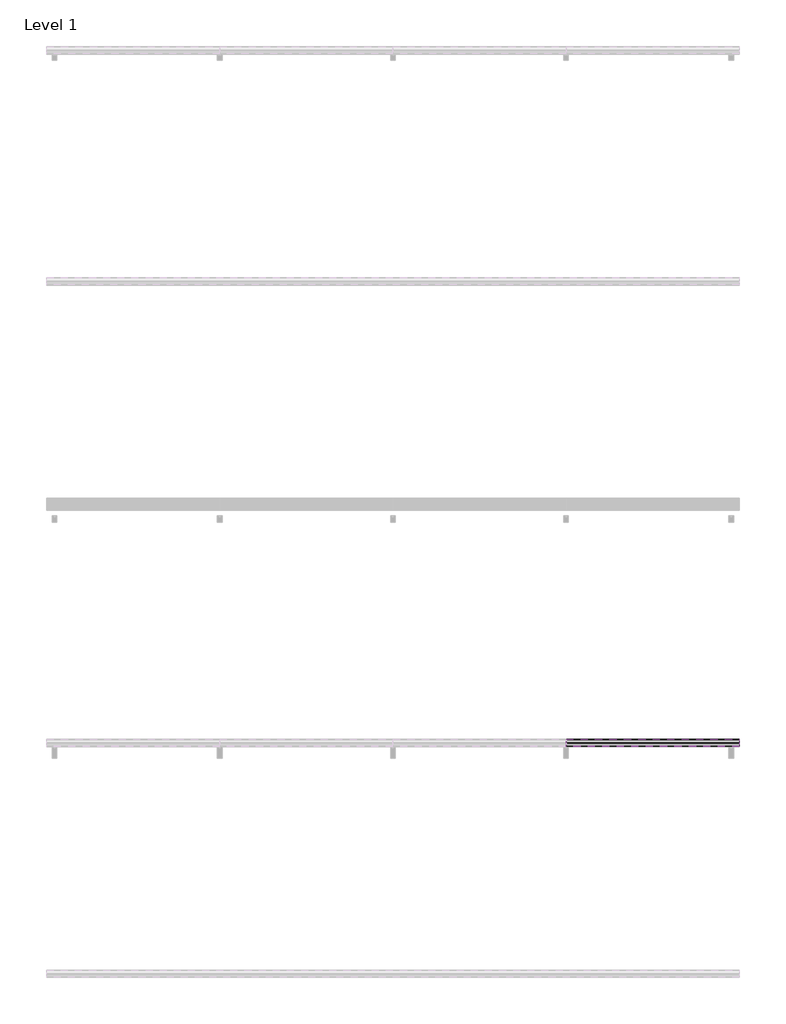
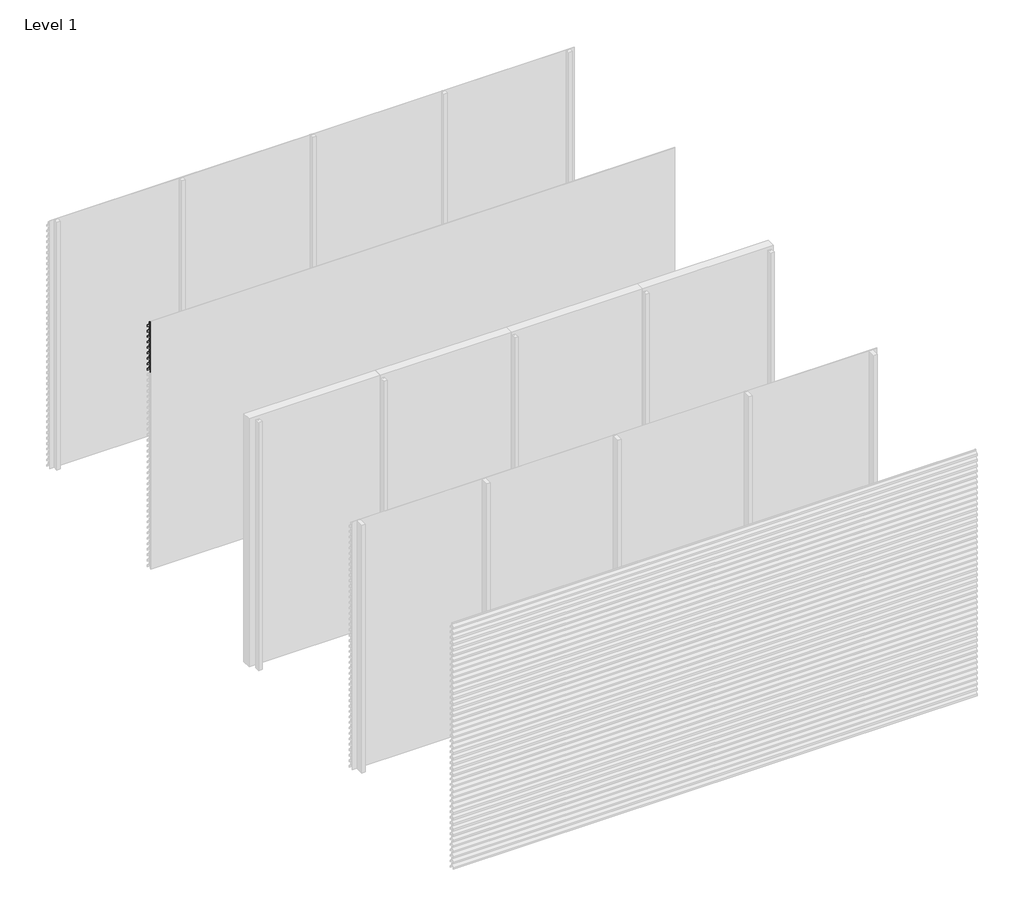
# One storey, part 15 of 35: 70 proxies.
"""IFC4 building model written with IfcOpenShell, lengths in millimetres."""

from ifc_helpers import new_model, si_unit, frame, origin, place, context, project, spatial, polyline, outline, extrude, element, save

model = new_model("IFC4")

# Units and contexts
model_context = context("Model", 3, world=origin())
ifc_project = project(units=[si_unit("LENGTHUNIT", "METRE", prefix="MILLI")], contexts=[model_context])

# Site, building, storey
site = spatial("IfcSite", under=ifc_project)
building = spatial("IfcBuilding", under=site)
storey = spatial("IfcBuildingStorey", under=building, Name="Level 1", Elevation=0.0)

# Proxies
placement = place(None, origin())
element("IfcBuildingElementProxy", 1, Name="Wall Sweeps", at=placement, inside=storey, context=model_context, shape_type="SweptSolid", body=[
    extrude(outline(polyline([(-31936.0, 2916.0), (-31936.0, 2896.0), (-31937.25, 2896.0), (-31937.25, 2915.4342979), (-31968.1138939, 2948.531772), (-31996.7, 2928.4392868), (-31996.7, 2909.6629874), (-31998.0, 2908.8506572), (-31998.0, 2929.1145472), (-31968.537525, 2949.823011), (-31968.537525, 2970.0), (-31967.1772624, 2970.0), (-31967.1772624, 2949.4335207), (-31936.0, 2916.0)])), frame((0.0, 0.0, 0.0), z_axis=(1.0, 0.0, 0.0), x_axis=(0.0, 1.0, 0.0)), (0.0, 0.0, 1.0), 6000.0),
])
element("IfcBuildingElementProxy", 2, Name="Wall Sweeps", at=placement, inside=storey, context=model_context, shape_type="SweptSolid", body=[
    extrude(outline(polyline([(-31936.0, 2850.0), (-31936.0, 2830.0), (-31937.25, 2830.0), (-31937.25, 2849.4342979), (-31968.1138939, 2882.531772), (-31996.7, 2862.4392868), (-31996.7, 2843.6629874), (-31998.0, 2842.8506572), (-31998.0, 2863.1145472), (-31968.537525, 2883.823011), (-31968.537525, 2904.0), (-31967.1772624, 2904.0), (-31967.1772624, 2883.4335207), (-31936.0, 2850.0)])), frame((0.0, 0.0, 0.0), z_axis=(1.0, 0.0, 0.0), x_axis=(0.0, 1.0, 0.0)), (0.0, 0.0, 1.0), 6000.0),
])
element("IfcBuildingElementProxy", 3, Name="Wall Sweeps", at=placement, inside=storey, context=model_context, shape_type="SweptSolid", body=[
    extrude(outline(polyline([(-31936.0, 2784.0), (-31936.0, 2764.0), (-31937.25, 2764.0), (-31937.25, 2783.4342979), (-31968.1138939, 2816.531772), (-31996.7, 2796.4392868), (-31996.7, 2777.6629874), (-31998.0, 2776.8506572), (-31998.0, 2797.1145472), (-31968.537525, 2817.823011), (-31968.537525, 2838.0), (-31967.1772624, 2838.0), (-31967.1772624, 2817.4335207), (-31936.0, 2784.0)])), frame((0.0, 0.0, 0.0), z_axis=(1.0, 0.0, 0.0), x_axis=(0.0, 1.0, 0.0)), (0.0, 0.0, 1.0), 6000.0),
])
element("IfcBuildingElementProxy", 4, Name="Wall Sweeps", at=placement, inside=storey, context=model_context, shape_type="SweptSolid", body=[
    extrude(outline(polyline([(-31936.0, 2718.0), (-31936.0, 2698.0), (-31937.25, 2698.0), (-31937.25, 2717.4342979), (-31968.1138939, 2750.531772), (-31996.7, 2730.4392868), (-31996.7, 2711.6629874), (-31998.0, 2710.8506572), (-31998.0, 2731.1145472), (-31968.537525, 2751.823011), (-31968.537525, 2772.0), (-31967.1772624, 2772.0), (-31967.1772624, 2751.4335207), (-31936.0, 2718.0)])), frame((0.0, 0.0, 0.0), z_axis=(1.0, 0.0, 0.0), x_axis=(0.0, 1.0, 0.0)), (0.0, 0.0, 1.0), 6000.0),
])
element("IfcBuildingElementProxy", 5, Name="Wall Sweeps", at=placement, inside=storey, context=model_context, shape_type="SweptSolid", body=[
    extrude(outline(polyline([(-31936.0, 2652.0), (-31936.0, 2632.0), (-31937.25, 2632.0), (-31937.25, 2651.4342979), (-31968.1138939, 2684.531772), (-31996.7, 2664.4392868), (-31996.7, 2645.6629874), (-31998.0, 2644.8506572), (-31998.0, 2665.1145472), (-31968.537525, 2685.823011), (-31968.537525, 2706.0), (-31967.1772624, 2706.0), (-31967.1772624, 2685.4335207), (-31936.0, 2652.0)])), frame((0.0, 0.0, 0.0), z_axis=(1.0, 0.0, 0.0), x_axis=(0.0, 1.0, 0.0)), (0.0, 0.0, 1.0), 6000.0),
])
element("IfcBuildingElementProxy", 6, Name="Wall Sweeps", at=placement, inside=storey, context=model_context, shape_type="SweptSolid", body=[
    extrude(outline(polyline([(-31936.0, 2586.0), (-31936.0, 2566.0), (-31937.25, 2566.0), (-31937.25, 2585.4342979), (-31968.1138939, 2618.531772), (-31996.7, 2598.4392868), (-31996.7, 2579.6629874), (-31998.0, 2578.8506572), (-31998.0, 2599.1145472), (-31968.537525, 2619.823011), (-31968.537525, 2640.0), (-31967.1772624, 2640.0), (-31967.1772624, 2619.4335207), (-31936.0, 2586.0)])), frame((0.0, 0.0, 0.0), z_axis=(1.0, 0.0, 0.0), x_axis=(0.0, 1.0, 0.0)), (0.0, 0.0, 1.0), 6000.0),
])
element("IfcBuildingElementProxy", 7, Name="Wall Sweeps", at=placement, inside=storey, context=model_context, shape_type="SweptSolid", body=[
    extrude(outline(polyline([(-31936.0, 2520.0), (-31936.0, 2500.0), (-31937.25, 2500.0), (-31937.25, 2519.4342979), (-31968.1138939, 2552.531772), (-31996.7, 2532.4392868), (-31996.7, 2513.6629874), (-31998.0, 2512.8506572), (-31998.0, 2533.1145472), (-31968.537525, 2553.823011), (-31968.537525, 2574.0), (-31967.1772624, 2574.0), (-31967.1772624, 2553.4335207), (-31936.0, 2520.0)])), frame((0.0, 0.0, 0.0), z_axis=(1.0, 0.0, 0.0), x_axis=(0.0, 1.0, 0.0)), (0.0, 0.0, 1.0), 6000.0),
])
element("IfcBuildingElementProxy", 8, Name="Wall Sweeps", at=placement, inside=storey, context=model_context, shape_type="SweptSolid", body=[
    extrude(outline(polyline([(-31936.0, 2454.0), (-31936.0, 2434.0), (-31937.25, 2434.0), (-31937.25, 2453.4342979), (-31968.1138939, 2486.531772), (-31996.7, 2466.4392868), (-31996.7, 2447.6629874), (-31998.0, 2446.8506572), (-31998.0, 2467.1145472), (-31968.537525, 2487.823011), (-31968.537525, 2508.0), (-31967.1772624, 2508.0), (-31967.1772624, 2487.4335207), (-31936.0, 2454.0)])), frame((0.0, 0.0, 0.0), z_axis=(1.0, 0.0, 0.0), x_axis=(0.0, 1.0, 0.0)), (0.0, 0.0, 1.0), 6000.0),
])
element("IfcBuildingElementProxy", 9, Name="Wall Sweeps", at=placement, inside=storey, context=model_context, shape_type="SweptSolid", body=[
    extrude(outline(polyline([(-31936.0, 2388.0), (-31936.0, 2368.0), (-31937.25, 2368.0), (-31937.25, 2387.4342979), (-31968.1138939, 2420.531772), (-31996.7, 2400.4392868), (-31996.7, 2381.6629874), (-31998.0, 2380.8506572), (-31998.0, 2401.1145472), (-31968.537525, 2421.823011), (-31968.537525, 2442.0), (-31967.1772624, 2442.0), (-31967.1772624, 2421.4335207), (-31936.0, 2388.0)])), frame((0.0, 0.0, 0.0), z_axis=(1.0, 0.0, 0.0), x_axis=(0.0, 1.0, 0.0)), (0.0, 0.0, 1.0), 6000.0),
])
element("IfcBuildingElementProxy", 10, Name="Wall Sweeps", at=placement, inside=storey, context=model_context, shape_type="SweptSolid", body=[
    extrude(outline(polyline([(-35936.0, 1002.0), (-35936.0, 982.0), (-35937.25, 982.0), (-35937.25, 1001.4342979), (-35968.1138939, 1034.531772), (-35996.7, 1014.4392868), (-35996.7, 995.6629874), (-35998.0, 994.8506572), (-35998.0, 1015.1145472), (-35968.537525, 1035.823011), (-35968.537525, 1056.0), (-35967.1772624, 1056.0), (-35967.1772624, 1035.4335207), (-35936.0, 1002.0)])), frame((3000.0, 0.0, 0.0), z_axis=(1.0, 0.0, 0.0), x_axis=(0.0, 1.0, 0.0)), (0.0, 0.0, 1.0), 1500.0),
])
element("IfcBuildingElementProxy", 11, Name="Wall Sweeps", at=placement, inside=storey, context=model_context, shape_type="SweptSolid", body=[
    extrude(outline(polyline([(-35936.0, 936.0), (-35936.0, 916.0), (-35937.25, 916.0), (-35937.25, 935.4342979), (-35968.1138939, 968.531772), (-35996.7, 948.4392868), (-35996.7, 929.6629874), (-35998.0, 928.8506572), (-35998.0, 949.1145472), (-35968.537525, 969.823011), (-35968.537525, 990.0), (-35967.1772624, 990.0), (-35967.1772624, 969.4335207), (-35936.0, 936.0)])), frame((3000.0, 0.0, 0.0), z_axis=(1.0, 0.0, 0.0), x_axis=(0.0, 1.0, 0.0)), (0.0, 0.0, 1.0), 1500.0),
])
element("IfcBuildingElementProxy", 12, Name="Wall Sweeps", at=placement, inside=storey, context=model_context, shape_type="SweptSolid", body=[
    extrude(outline(polyline([(-35936.0, 870.0), (-35936.0, 850.0), (-35937.25, 850.0), (-35937.25, 869.4342979), (-35968.1138939, 902.531772), (-35996.7, 882.4392868), (-35996.7, 863.6629874), (-35998.0, 862.8506572), (-35998.0, 883.1145472), (-35968.537525, 903.823011), (-35968.537525, 924.0), (-35967.1772624, 924.0), (-35967.1772624, 903.4335207), (-35936.0, 870.0)])), frame((3000.0, 0.0, 0.0), z_axis=(1.0, 0.0, 0.0), x_axis=(0.0, 1.0, 0.0)), (0.0, 0.0, 1.0), 1500.0),
])
element("IfcBuildingElementProxy", 13, Name="Wall Sweeps", at=placement, inside=storey, context=model_context, shape_type="SweptSolid", body=[
    extrude(outline(polyline([(-35936.0, 804.0), (-35936.0, 784.0), (-35937.25, 784.0), (-35937.25, 803.4342979), (-35968.1138939, 836.531772), (-35996.7, 816.4392868), (-35996.7, 797.6629874), (-35998.0, 796.8506572), (-35998.0, 817.1145472), (-35968.537525, 837.823011), (-35968.537525, 858.0), (-35967.1772624, 858.0), (-35967.1772624, 837.4335207), (-35936.0, 804.0)])), frame((3000.0, 0.0, 0.0), z_axis=(1.0, 0.0, 0.0), x_axis=(0.0, 1.0, 0.0)), (0.0, 0.0, 1.0), 1500.0),
])
element("IfcBuildingElementProxy", 14, Name="Wall Sweeps", at=placement, inside=storey, context=model_context, shape_type="SweptSolid", body=[
    extrude(outline(polyline([(-35936.0, 738.0), (-35936.0, 718.0), (-35937.25, 718.0), (-35937.25, 737.4342979), (-35968.1138939, 770.531772), (-35996.7, 750.4392868), (-35996.7, 731.6629874), (-35998.0, 730.8506572), (-35998.0, 751.1145472), (-35968.537525, 771.823011), (-35968.537525, 792.0), (-35967.1772624, 792.0), (-35967.1772624, 771.4335207), (-35936.0, 738.0)])), frame((3000.0, 0.0, 0.0), z_axis=(1.0, 0.0, 0.0), x_axis=(0.0, 1.0, 0.0)), (0.0, 0.0, 1.0), 1500.0),
])
element("IfcBuildingElementProxy", 15, Name="Wall Sweeps", at=placement, inside=storey, context=model_context, shape_type="SweptSolid", body=[
    extrude(outline(polyline([(-35936.0, 672.0), (-35936.0, 652.0), (-35937.25, 652.0), (-35937.25, 671.4342979), (-35968.1138939, 704.531772), (-35996.7, 684.4392868), (-35996.7, 665.6629874), (-35998.0, 664.8506572), (-35998.0, 685.1145472), (-35968.537525, 705.823011), (-35968.537525, 726.0), (-35967.1772624, 726.0), (-35967.1772624, 705.4335207), (-35936.0, 672.0)])), frame((3000.0, 0.0, 0.0), z_axis=(1.0, 0.0, 0.0), x_axis=(0.0, 1.0, 0.0)), (0.0, 0.0, 1.0), 1500.0),
])
element("IfcBuildingElementProxy", 16, Name="Wall Sweeps", at=placement, inside=storey, context=model_context, shape_type="SweptSolid", body=[
    extrude(outline(polyline([(-35936.0, 606.0), (-35936.0, 586.0), (-35937.25, 586.0), (-35937.25, 605.4342979), (-35968.1138939, 638.531772), (-35996.7, 618.4392868), (-35996.7, 599.6629874), (-35998.0, 598.8506572), (-35998.0, 619.1145472), (-35968.537525, 639.823011), (-35968.537525, 660.0), (-35967.1772624, 660.0), (-35967.1772624, 639.4335207), (-35936.0, 606.0)])), frame((3000.0, 0.0, 0.0), z_axis=(1.0, 0.0, 0.0), x_axis=(0.0, 1.0, 0.0)), (0.0, 0.0, 1.0), 1500.0),
])
element("IfcBuildingElementProxy", 17, Name="Wall Sweeps", at=placement, inside=storey, context=model_context, shape_type="SweptSolid", body=[
    extrude(outline(polyline([(-35936.0, 540.0), (-35936.0, 520.0), (-35937.25, 520.0), (-35937.25, 539.4342979), (-35968.1138939, 572.531772), (-35996.7, 552.4392868), (-35996.7, 533.6629874), (-35998.0, 532.8506572), (-35998.0, 553.1145472), (-35968.537525, 573.823011), (-35968.537525, 594.0), (-35967.1772624, 594.0), (-35967.1772624, 573.4335207), (-35936.0, 540.0)])), frame((3000.0, 0.0, 0.0), z_axis=(1.0, 0.0, 0.0), x_axis=(0.0, 1.0, 0.0)), (0.0, 0.0, 1.0), 1500.0),
])
element("IfcBuildingElementProxy", 18, Name="Wall Sweeps", at=placement, inside=storey, context=model_context, shape_type="SweptSolid", body=[
    extrude(outline(polyline([(-35936.0, 474.0), (-35936.0, 454.0), (-35937.25, 454.0), (-35937.25, 473.4342979), (-35968.1138939, 506.531772), (-35996.7, 486.4392868), (-35996.7, 467.6629874), (-35998.0, 466.8506572), (-35998.0, 487.1145472), (-35968.537525, 507.823011), (-35968.537525, 528.0), (-35967.1772624, 528.0), (-35967.1772624, 507.4335207), (-35936.0, 474.0)])), frame((3000.0, 0.0, 0.0), z_axis=(1.0, 0.0, 0.0), x_axis=(0.0, 1.0, 0.0)), (0.0, 0.0, 1.0), 1500.0),
])
element("IfcBuildingElementProxy", 19, Name="Wall Sweeps", at=placement, inside=storey, context=model_context, shape_type="SweptSolid", body=[
    extrude(outline(polyline([(-35936.0, 408.0), (-35936.0, 388.0), (-35937.25, 388.0), (-35937.25, 407.4342979), (-35968.1138939, 440.531772), (-35996.7, 420.4392868), (-35996.7, 401.6629874), (-35998.0, 400.8506572), (-35998.0, 421.1145472), (-35968.537525, 441.823011), (-35968.537525, 462.0), (-35967.1772624, 462.0), (-35967.1772624, 441.4335207), (-35936.0, 408.0)])), frame((3000.0, 0.0, 0.0), z_axis=(1.0, 0.0, 0.0), x_axis=(0.0, 1.0, 0.0)), (0.0, 0.0, 1.0), 1500.0),
])
element("IfcBuildingElementProxy", 20, Name="Wall Sweeps", at=placement, inside=storey, context=model_context, shape_type="SweptSolid", body=[
    extrude(outline(polyline([(-35936.0, 342.0), (-35936.0, 322.0), (-35937.25, 322.0), (-35937.25, 341.4342979), (-35968.1138939, 374.531772), (-35996.7, 354.4392868), (-35996.7, 335.6629874), (-35998.0, 334.8506572), (-35998.0, 355.1145472), (-35968.537525, 375.823011), (-35968.537525, 396.0), (-35967.1772624, 396.0), (-35967.1772624, 375.4335207), (-35936.0, 342.0)])), frame((3000.0, 0.0, 0.0), z_axis=(1.0, 0.0, 0.0), x_axis=(0.0, 1.0, 0.0)), (0.0, 0.0, 1.0), 1500.0),
])
element("IfcBuildingElementProxy", 21, Name="Wall Sweeps", at=placement, inside=storey, context=model_context, shape_type="SweptSolid", body=[
    extrude(outline(polyline([(-35936.0, 276.0), (-35936.0, 256.0), (-35937.25, 256.0), (-35937.25, 275.4342979), (-35968.1138939, 308.531772), (-35996.7, 288.4392868), (-35996.7, 269.6629874), (-35998.0, 268.8506572), (-35998.0, 289.1145472), (-35968.537525, 309.823011), (-35968.537525, 330.0), (-35967.1772624, 330.0), (-35967.1772624, 309.4335207), (-35936.0, 276.0)])), frame((3000.0, 0.0, 0.0), z_axis=(1.0, 0.0, 0.0), x_axis=(0.0, 1.0, 0.0)), (0.0, 0.0, 1.0), 1500.0),
])
element("IfcBuildingElementProxy", 22, Name="Wall Sweeps", at=placement, inside=storey, context=model_context, shape_type="SweptSolid", body=[
    extrude(outline(polyline([(-35936.0, 210.0), (-35936.0, 190.0), (-35937.25, 190.0), (-35937.25, 209.4342979), (-35968.1138939, 242.531772), (-35996.7, 222.4392868), (-35996.7, 203.6629874), (-35998.0, 202.8506572), (-35998.0, 223.1145472), (-35968.537525, 243.823011), (-35968.537525, 264.0), (-35967.1772624, 264.0), (-35967.1772624, 243.4335207), (-35936.0, 210.0)])), frame((3000.0, 0.0, 0.0), z_axis=(1.0, 0.0, 0.0), x_axis=(0.0, 1.0, 0.0)), (0.0, 0.0, 1.0), 1500.0),
])
element("IfcBuildingElementProxy", 23, Name="Wall Sweeps", at=placement, inside=storey, context=model_context, shape_type="SweptSolid", body=[
    extrude(outline(polyline([(-35936.0, 144.0), (-35936.0, 124.0), (-35937.25, 124.0), (-35937.25, 143.4342979), (-35968.1138939, 176.531772), (-35996.7, 156.4392868), (-35996.7, 137.6629874), (-35998.0, 136.8506572), (-35998.0, 157.1145472), (-35968.537525, 177.823011), (-35968.537525, 198.0), (-35967.1772624, 198.0), (-35967.1772624, 177.4335207), (-35936.0, 144.0)])), frame((3000.0, 0.0, 0.0), z_axis=(1.0, 0.0, 0.0), x_axis=(0.0, 1.0, 0.0)), (0.0, 0.0, 1.0), 1500.0),
])
element("IfcBuildingElementProxy", 24, Name="Wall Sweeps", at=placement, inside=storey, context=model_context, shape_type="SweptSolid", body=[
    extrude(outline(polyline([(-35936.0, 78.0), (-35936.0, 58.0), (-35937.25, 58.0), (-35937.25, 77.4342979), (-35968.1138939, 110.531772), (-35996.7, 90.4392868), (-35996.7, 71.6629874), (-35998.0, 70.8506572), (-35998.0, 91.1145472), (-35968.537525, 111.823011), (-35968.537525, 132.0), (-35967.1772624, 132.0), (-35967.1772624, 111.4335207), (-35936.0, 78.0)])), frame((3000.0, 0.0, 0.0), z_axis=(1.0, 0.0, 0.0), x_axis=(0.0, 1.0, 0.0)), (0.0, 0.0, 1.0), 1500.0),
])
element("IfcBuildingElementProxy", 25, Name="Wall Sweeps", at=placement, inside=storey, context=model_context, shape_type="SweptSolid", body=[
    extrude(outline(polyline([(-35936.0, 12.0), (-35936.0, -8.0), (-35937.25, -8.0), (-35937.25, 11.4342979), (-35968.1138939, 44.531772), (-35996.7, 24.4392868), (-35996.7, 5.6629874), (-35998.0, 4.8506572), (-35998.0, 25.1145472), (-35968.537525, 45.823011), (-35968.537525, 66.0), (-35967.1772624, 66.0), (-35967.1772624, 45.4335207), (-35936.0, 12.0)])), frame((3000.0, 0.0, 0.0), z_axis=(1.0, 0.0, 0.0), x_axis=(0.0, 1.0, 0.0)), (0.0, 0.0, 1.0), 1500.0),
])
element("IfcBuildingElementProxy", 26, Name="Wall Sweeps", at=placement, inside=storey, context=model_context, shape_type="SweptSolid", body=[
    extrude(outline(polyline([(-35936.0, 2916.0), (-35936.0, 2896.0), (-35937.25, 2896.0), (-35937.25, 2915.4342979), (-35968.1138939, 2948.531772), (-35996.7, 2928.4392868), (-35996.7, 2909.6629874), (-35998.0, 2908.8506572), (-35998.0, 2929.1145472), (-35968.537525, 2949.823011), (-35968.537525, 2970.0), (-35967.1772624, 2970.0), (-35967.1772624, 2949.4335207), (-35936.0, 2916.0)])), frame((4500.0, 0.0, 0.0), z_axis=(1.0, 0.0, 0.0), x_axis=(0.0, 1.0, 0.0)), (0.0, 0.0, 1.0), 1500.0),
])
element("IfcBuildingElementProxy", 27, Name="Wall Sweeps", at=placement, inside=storey, context=model_context, shape_type="SweptSolid", body=[
    extrude(outline(polyline([(-35936.0, 2850.0), (-35936.0, 2830.0), (-35937.25, 2830.0), (-35937.25, 2849.4342979), (-35968.1138939, 2882.531772), (-35996.7, 2862.4392868), (-35996.7, 2843.6629874), (-35998.0, 2842.8506572), (-35998.0, 2863.1145472), (-35968.537525, 2883.823011), (-35968.537525, 2904.0), (-35967.1772624, 2904.0), (-35967.1772624, 2883.4335207), (-35936.0, 2850.0)])), frame((4500.0, 0.0, 0.0), z_axis=(1.0, 0.0, 0.0), x_axis=(0.0, 1.0, 0.0)), (0.0, 0.0, 1.0), 1500.0),
])
element("IfcBuildingElementProxy", 28, Name="Wall Sweeps", at=placement, inside=storey, context=model_context, shape_type="SweptSolid", body=[
    extrude(outline(polyline([(-35936.0, 2784.0), (-35936.0, 2764.0), (-35937.25, 2764.0), (-35937.25, 2783.4342979), (-35968.1138939, 2816.531772), (-35996.7, 2796.4392868), (-35996.7, 2777.6629874), (-35998.0, 2776.8506572), (-35998.0, 2797.1145472), (-35968.537525, 2817.823011), (-35968.537525, 2838.0), (-35967.1772624, 2838.0), (-35967.1772624, 2817.4335207), (-35936.0, 2784.0)])), frame((4500.0, 0.0, 0.0), z_axis=(1.0, 0.0, 0.0), x_axis=(0.0, 1.0, 0.0)), (0.0, 0.0, 1.0), 1500.0),
])
element("IfcBuildingElementProxy", 29, Name="Wall Sweeps", at=placement, inside=storey, context=model_context, shape_type="SweptSolid", body=[
    extrude(outline(polyline([(-35936.0, 2718.0), (-35936.0, 2698.0), (-35937.25, 2698.0), (-35937.25, 2717.4342979), (-35968.1138939, 2750.531772), (-35996.7, 2730.4392868), (-35996.7, 2711.6629874), (-35998.0, 2710.8506572), (-35998.0, 2731.1145472), (-35968.537525, 2751.823011), (-35968.537525, 2772.0), (-35967.1772624, 2772.0), (-35967.1772624, 2751.4335207), (-35936.0, 2718.0)])), frame((4500.0, 0.0, 0.0), z_axis=(1.0, 0.0, 0.0), x_axis=(0.0, 1.0, 0.0)), (0.0, 0.0, 1.0), 1500.0),
])
element("IfcBuildingElementProxy", 30, Name="Wall Sweeps", at=placement, inside=storey, context=model_context, shape_type="SweptSolid", body=[
    extrude(outline(polyline([(-35936.0, 2652.0), (-35936.0, 2632.0), (-35937.25, 2632.0), (-35937.25, 2651.4342979), (-35968.1138939, 2684.531772), (-35996.7, 2664.4392868), (-35996.7, 2645.6629874), (-35998.0, 2644.8506572), (-35998.0, 2665.1145472), (-35968.537525, 2685.823011), (-35968.537525, 2706.0), (-35967.1772624, 2706.0), (-35967.1772624, 2685.4335207), (-35936.0, 2652.0)])), frame((4500.0, 0.0, 0.0), z_axis=(1.0, 0.0, 0.0), x_axis=(0.0, 1.0, 0.0)), (0.0, 0.0, 1.0), 1500.0),
])
element("IfcBuildingElementProxy", 31, Name="Wall Sweeps", at=placement, inside=storey, context=model_context, shape_type="SweptSolid", body=[
    extrude(outline(polyline([(-35936.0, 2586.0), (-35936.0, 2566.0), (-35937.25, 2566.0), (-35937.25, 2585.4342979), (-35968.1138939, 2618.531772), (-35996.7, 2598.4392868), (-35996.7, 2579.6629874), (-35998.0, 2578.8506572), (-35998.0, 2599.1145472), (-35968.537525, 2619.823011), (-35968.537525, 2640.0), (-35967.1772624, 2640.0), (-35967.1772624, 2619.4335207), (-35936.0, 2586.0)])), frame((4500.0, 0.0, 0.0), z_axis=(1.0, 0.0, 0.0), x_axis=(0.0, 1.0, 0.0)), (0.0, 0.0, 1.0), 1500.0),
])
element("IfcBuildingElementProxy", 32, Name="Wall Sweeps", at=placement, inside=storey, context=model_context, shape_type="SweptSolid", body=[
    extrude(outline(polyline([(-35936.0, 2520.0), (-35936.0, 2500.0), (-35937.25, 2500.0), (-35937.25, 2519.4342979), (-35968.1138939, 2552.531772), (-35996.7, 2532.4392868), (-35996.7, 2513.6629874), (-35998.0, 2512.8506572), (-35998.0, 2533.1145472), (-35968.537525, 2553.823011), (-35968.537525, 2574.0), (-35967.1772624, 2574.0), (-35967.1772624, 2553.4335207), (-35936.0, 2520.0)])), frame((4500.0, 0.0, 0.0), z_axis=(1.0, 0.0, 0.0), x_axis=(0.0, 1.0, 0.0)), (0.0, 0.0, 1.0), 1500.0),
])
element("IfcBuildingElementProxy", 33, Name="Wall Sweeps", at=placement, inside=storey, context=model_context, shape_type="SweptSolid", body=[
    extrude(outline(polyline([(-35936.0, 2454.0), (-35936.0, 2434.0), (-35937.25, 2434.0), (-35937.25, 2453.4342979), (-35968.1138939, 2486.531772), (-35996.7, 2466.4392868), (-35996.7, 2447.6629874), (-35998.0, 2446.8506572), (-35998.0, 2467.1145472), (-35968.537525, 2487.823011), (-35968.537525, 2508.0), (-35967.1772624, 2508.0), (-35967.1772624, 2487.4335207), (-35936.0, 2454.0)])), frame((4500.0, 0.0, 0.0), z_axis=(1.0, 0.0, 0.0), x_axis=(0.0, 1.0, 0.0)), (0.0, 0.0, 1.0), 1500.0),
])
element("IfcBuildingElementProxy", 34, Name="Wall Sweeps", at=placement, inside=storey, context=model_context, shape_type="SweptSolid", body=[
    extrude(outline(polyline([(-35936.0, 2388.0), (-35936.0, 2368.0), (-35937.25, 2368.0), (-35937.25, 2387.4342979), (-35968.1138939, 2420.531772), (-35996.7, 2400.4392868), (-35996.7, 2381.6629874), (-35998.0, 2380.8506572), (-35998.0, 2401.1145472), (-35968.537525, 2421.823011), (-35968.537525, 2442.0), (-35967.1772624, 2442.0), (-35967.1772624, 2421.4335207), (-35936.0, 2388.0)])), frame((4500.0, 0.0, 0.0), z_axis=(1.0, 0.0, 0.0), x_axis=(0.0, 1.0, 0.0)), (0.0, 0.0, 1.0), 1500.0),
])
element("IfcBuildingElementProxy", 35, Name="Wall Sweeps", at=placement, inside=storey, context=model_context, shape_type="SweptSolid", body=[
    extrude(outline(polyline([(-35936.0, 2322.0), (-35936.0, 2302.0), (-35937.25, 2302.0), (-35937.25, 2321.4342979), (-35968.1138939, 2354.531772), (-35996.7, 2334.4392868), (-35996.7, 2315.6629874), (-35998.0, 2314.8506572), (-35998.0, 2335.1145472), (-35968.537525, 2355.823011), (-35968.537525, 2376.0), (-35967.1772624, 2376.0), (-35967.1772624, 2355.4335207), (-35936.0, 2322.0)])), frame((4500.0, 0.0, 0.0), z_axis=(1.0, 0.0, 0.0), x_axis=(0.0, 1.0, 0.0)), (0.0, 0.0, 1.0), 1500.0),
])
element("IfcBuildingElementProxy", 36, Name="Wall Sweeps", at=placement, inside=storey, context=model_context, shape_type="SweptSolid", body=[
    extrude(outline(polyline([(-35936.0, 2256.0), (-35936.0, 2236.0), (-35937.25, 2236.0), (-35937.25, 2255.4342979), (-35968.1138939, 2288.531772), (-35996.7, 2268.4392868), (-35996.7, 2249.6629874), (-35998.0, 2248.8506572), (-35998.0, 2269.1145472), (-35968.537525, 2289.823011), (-35968.537525, 2310.0), (-35967.1772624, 2310.0), (-35967.1772624, 2289.4335207), (-35936.0, 2256.0)])), frame((4500.0, 0.0, 0.0), z_axis=(1.0, 0.0, 0.0), x_axis=(0.0, 1.0, 0.0)), (0.0, 0.0, 1.0), 1500.0),
])
element("IfcBuildingElementProxy", 37, Name="Wall Sweeps", at=placement, inside=storey, context=model_context, shape_type="SweptSolid", body=[
    extrude(outline(polyline([(-35936.0, 2190.0), (-35936.0, 2170.0), (-35937.25, 2170.0), (-35937.25, 2189.4342979), (-35968.1138939, 2222.531772), (-35996.7, 2202.4392868), (-35996.7, 2183.6629874), (-35998.0, 2182.8506572), (-35998.0, 2203.1145472), (-35968.537525, 2223.823011), (-35968.537525, 2244.0), (-35967.1772624, 2244.0), (-35967.1772624, 2223.4335207), (-35936.0, 2190.0)])), frame((4500.0, 0.0, 0.0), z_axis=(1.0, 0.0, 0.0), x_axis=(0.0, 1.0, 0.0)), (0.0, 0.0, 1.0), 1500.0),
])
element("IfcBuildingElementProxy", 38, Name="Wall Sweeps", at=placement, inside=storey, context=model_context, shape_type="SweptSolid", body=[
    extrude(outline(polyline([(-35936.0, 2124.0), (-35936.0, 2104.0), (-35937.25, 2104.0), (-35937.25, 2123.4342979), (-35968.1138939, 2156.531772), (-35996.7, 2136.4392868), (-35996.7, 2117.6629874), (-35998.0, 2116.8506572), (-35998.0, 2137.1145472), (-35968.537525, 2157.823011), (-35968.537525, 2178.0), (-35967.1772624, 2178.0), (-35967.1772624, 2157.4335207), (-35936.0, 2124.0)])), frame((4500.0, 0.0, 0.0), z_axis=(1.0, 0.0, 0.0), x_axis=(0.0, 1.0, 0.0)), (0.0, 0.0, 1.0), 1500.0),
])
element("IfcBuildingElementProxy", 39, Name="Wall Sweeps", at=placement, inside=storey, context=model_context, shape_type="SweptSolid", body=[
    extrude(outline(polyline([(-35936.0, 2058.0), (-35936.0, 2038.0), (-35937.25, 2038.0), (-35937.25, 2057.4342979), (-35968.1138939, 2090.531772), (-35996.7, 2070.4392868), (-35996.7, 2051.6629874), (-35998.0, 2050.8506572), (-35998.0, 2071.1145472), (-35968.537525, 2091.823011), (-35968.537525, 2112.0), (-35967.1772624, 2112.0), (-35967.1772624, 2091.4335207), (-35936.0, 2058.0)])), frame((4500.0, 0.0, 0.0), z_axis=(1.0, 0.0, 0.0), x_axis=(0.0, 1.0, 0.0)), (0.0, 0.0, 1.0), 1500.0),
])
element("IfcBuildingElementProxy", 40, Name="Wall Sweeps", at=placement, inside=storey, context=model_context, shape_type="SweptSolid", body=[
    extrude(outline(polyline([(-35936.0, 1992.0), (-35936.0, 1972.0), (-35937.25, 1972.0), (-35937.25, 1991.4342979), (-35968.1138939, 2024.531772), (-35996.7, 2004.4392868), (-35996.7, 1985.6629874), (-35998.0, 1984.8506572), (-35998.0, 2005.1145472), (-35968.537525, 2025.823011), (-35968.537525, 2046.0), (-35967.1772624, 2046.0), (-35967.1772624, 2025.4335207), (-35936.0, 1992.0)])), frame((4500.0, 0.0, 0.0), z_axis=(1.0, 0.0, 0.0), x_axis=(0.0, 1.0, 0.0)), (0.0, 0.0, 1.0), 1500.0),
])
element("IfcBuildingElementProxy", 41, Name="Wall Sweeps", at=placement, inside=storey, context=model_context, shape_type="SweptSolid", body=[
    extrude(outline(polyline([(-35936.0, 1926.0), (-35936.0, 1906.0), (-35937.25, 1906.0), (-35937.25, 1925.4342979), (-35968.1138939, 1958.531772), (-35996.7, 1938.4392868), (-35996.7, 1919.6629874), (-35998.0, 1918.8506572), (-35998.0, 1939.1145472), (-35968.537525, 1959.823011), (-35968.537525, 1980.0), (-35967.1772624, 1980.0), (-35967.1772624, 1959.4335207), (-35936.0, 1926.0)])), frame((4500.0, 0.0, 0.0), z_axis=(1.0, 0.0, 0.0), x_axis=(0.0, 1.0, 0.0)), (0.0, 0.0, 1.0), 1500.0),
])
element("IfcBuildingElementProxy", 42, Name="Wall Sweeps", at=placement, inside=storey, context=model_context, shape_type="SweptSolid", body=[
    extrude(outline(polyline([(-35936.0, 1860.0), (-35936.0, 1840.0), (-35937.25, 1840.0), (-35937.25, 1859.4342979), (-35968.1138939, 1892.531772), (-35996.7, 1872.4392868), (-35996.7, 1853.6629874), (-35998.0, 1852.8506572), (-35998.0, 1873.1145472), (-35968.537525, 1893.823011), (-35968.537525, 1914.0), (-35967.1772624, 1914.0), (-35967.1772624, 1893.4335207), (-35936.0, 1860.0)])), frame((4500.0, 0.0, 0.0), z_axis=(1.0, 0.0, 0.0), x_axis=(0.0, 1.0, 0.0)), (0.0, 0.0, 1.0), 1500.0),
])
element("IfcBuildingElementProxy", 43, Name="Wall Sweeps", at=placement, inside=storey, context=model_context, shape_type="SweptSolid", body=[
    extrude(outline(polyline([(-35936.0, 1794.0), (-35936.0, 1774.0), (-35937.25, 1774.0), (-35937.25, 1793.4342979), (-35968.1138939, 1826.531772), (-35996.7, 1806.4392868), (-35996.7, 1787.6629874), (-35998.0, 1786.8506572), (-35998.0, 1807.1145472), (-35968.537525, 1827.823011), (-35968.537525, 1848.0), (-35967.1772624, 1848.0), (-35967.1772624, 1827.4335207), (-35936.0, 1794.0)])), frame((4500.0, 0.0, 0.0), z_axis=(1.0, 0.0, 0.0), x_axis=(0.0, 1.0, 0.0)), (0.0, 0.0, 1.0), 1500.0),
])
element("IfcBuildingElementProxy", 44, Name="Wall Sweeps", at=placement, inside=storey, context=model_context, shape_type="SweptSolid", body=[
    extrude(outline(polyline([(-35936.0, 1728.0), (-35936.0, 1708.0), (-35937.25, 1708.0), (-35937.25, 1727.4342979), (-35968.1138939, 1760.531772), (-35996.7, 1740.4392868), (-35996.7, 1721.6629874), (-35998.0, 1720.8506572), (-35998.0, 1741.1145472), (-35968.537525, 1761.823011), (-35968.537525, 1782.0), (-35967.1772624, 1782.0), (-35967.1772624, 1761.4335207), (-35936.0, 1728.0)])), frame((4500.0, 0.0, 0.0), z_axis=(1.0, 0.0, 0.0), x_axis=(0.0, 1.0, 0.0)), (0.0, 0.0, 1.0), 1500.0),
])
element("IfcBuildingElementProxy", 45, Name="Wall Sweeps", at=placement, inside=storey, context=model_context, shape_type="SweptSolid", body=[
    extrude(outline(polyline([(-35936.0, 1662.0), (-35936.0, 1642.0), (-35937.25, 1642.0), (-35937.25, 1661.4342979), (-35968.1138939, 1694.531772), (-35996.7, 1674.4392868), (-35996.7, 1655.6629874), (-35998.0, 1654.8506572), (-35998.0, 1675.1145472), (-35968.537525, 1695.823011), (-35968.537525, 1716.0), (-35967.1772624, 1716.0), (-35967.1772624, 1695.4335207), (-35936.0, 1662.0)])), frame((4500.0, 0.0, 0.0), z_axis=(1.0, 0.0, 0.0), x_axis=(0.0, 1.0, 0.0)), (0.0, 0.0, 1.0), 1500.0),
])
element("IfcBuildingElementProxy", 46, Name="Wall Sweeps", at=placement, inside=storey, context=model_context, shape_type="SweptSolid", body=[
    extrude(outline(polyline([(-35936.0, 1596.0), (-35936.0, 1576.0), (-35937.25, 1576.0), (-35937.25, 1595.4342979), (-35968.1138939, 1628.531772), (-35996.7, 1608.4392868), (-35996.7, 1589.6629874), (-35998.0, 1588.8506572), (-35998.0, 1609.1145472), (-35968.537525, 1629.823011), (-35968.537525, 1650.0), (-35967.1772624, 1650.0), (-35967.1772624, 1629.4335207), (-35936.0, 1596.0)])), frame((4500.0, 0.0, 0.0), z_axis=(1.0, 0.0, 0.0), x_axis=(0.0, 1.0, 0.0)), (0.0, 0.0, 1.0), 1500.0),
])
element("IfcBuildingElementProxy", 47, Name="Wall Sweeps", at=placement, inside=storey, context=model_context, shape_type="SweptSolid", body=[
    extrude(outline(polyline([(-35936.0, 1530.0), (-35936.0, 1510.0), (-35937.25, 1510.0), (-35937.25, 1529.4342979), (-35968.1138939, 1562.531772), (-35996.7, 1542.4392868), (-35996.7, 1523.6629874), (-35998.0, 1522.8506572), (-35998.0, 1543.1145472), (-35968.537525, 1563.823011), (-35968.537525, 1584.0), (-35967.1772624, 1584.0), (-35967.1772624, 1563.4335207), (-35936.0, 1530.0)])), frame((4500.0, 0.0, 0.0), z_axis=(1.0, 0.0, 0.0), x_axis=(0.0, 1.0, 0.0)), (0.0, 0.0, 1.0), 1500.0),
])
element("IfcBuildingElementProxy", 48, Name="Wall Sweeps", at=placement, inside=storey, context=model_context, shape_type="SweptSolid", body=[
    extrude(outline(polyline([(-35936.0, 1464.0), (-35936.0, 1444.0), (-35937.25, 1444.0), (-35937.25, 1463.4342979), (-35968.1138939, 1496.531772), (-35996.7, 1476.4392868), (-35996.7, 1457.6629874), (-35998.0, 1456.8506572), (-35998.0, 1477.1145472), (-35968.537525, 1497.823011), (-35968.537525, 1518.0), (-35967.1772624, 1518.0), (-35967.1772624, 1497.4335207), (-35936.0, 1464.0)])), frame((4500.0, 0.0, 0.0), z_axis=(1.0, 0.0, 0.0), x_axis=(0.0, 1.0, 0.0)), (0.0, 0.0, 1.0), 1500.0),
])
element("IfcBuildingElementProxy", 49, Name="Wall Sweeps", at=placement, inside=storey, context=model_context, shape_type="SweptSolid", body=[
    extrude(outline(polyline([(-35936.0, 1398.0), (-35936.0, 1378.0), (-35937.25, 1378.0), (-35937.25, 1397.4342979), (-35968.1138939, 1430.531772), (-35996.7, 1410.4392868), (-35996.7, 1391.6629874), (-35998.0, 1390.8506572), (-35998.0, 1411.1145472), (-35968.537525, 1431.823011), (-35968.537525, 1452.0), (-35967.1772624, 1452.0), (-35967.1772624, 1431.4335207), (-35936.0, 1398.0)])), frame((4500.0, 0.0, 0.0), z_axis=(1.0, 0.0, 0.0), x_axis=(0.0, 1.0, 0.0)), (0.0, 0.0, 1.0), 1500.0),
])
element("IfcBuildingElementProxy", 50, Name="Wall Sweeps", at=placement, inside=storey, context=model_context, shape_type="SweptSolid", body=[
    extrude(outline(polyline([(-35936.0, 1332.0), (-35936.0, 1312.0), (-35937.25, 1312.0), (-35937.25, 1331.4342979), (-35968.1138939, 1364.531772), (-35996.7, 1344.4392868), (-35996.7, 1325.6629874), (-35998.0, 1324.8506572), (-35998.0, 1345.1145472), (-35968.537525, 1365.823011), (-35968.537525, 1386.0), (-35967.1772624, 1386.0), (-35967.1772624, 1365.4335207), (-35936.0, 1332.0)])), frame((4500.0, 0.0, 0.0), z_axis=(1.0, 0.0, 0.0), x_axis=(0.0, 1.0, 0.0)), (0.0, 0.0, 1.0), 1500.0),
])
element("IfcBuildingElementProxy", 51, Name="Wall Sweeps", at=placement, inside=storey, context=model_context, shape_type="SweptSolid", body=[
    extrude(outline(polyline([(-35936.0, 1266.0), (-35936.0, 1246.0), (-35937.25, 1246.0), (-35937.25, 1265.4342979), (-35968.1138939, 1298.531772), (-35996.7, 1278.4392868), (-35996.7, 1259.6629874), (-35998.0, 1258.8506572), (-35998.0, 1279.1145472), (-35968.537525, 1299.823011), (-35968.537525, 1320.0), (-35967.1772624, 1320.0), (-35967.1772624, 1299.4335207), (-35936.0, 1266.0)])), frame((4500.0, 0.0, 0.0), z_axis=(1.0, 0.0, 0.0), x_axis=(0.0, 1.0, 0.0)), (0.0, 0.0, 1.0), 1500.0),
])
element("IfcBuildingElementProxy", 52, Name="Wall Sweeps", at=placement, inside=storey, context=model_context, shape_type="SweptSolid", body=[
    extrude(outline(polyline([(-35936.0, 1200.0), (-35936.0, 1180.0), (-35937.25, 1180.0), (-35937.25, 1199.4342979), (-35968.1138939, 1232.531772), (-35996.7, 1212.4392868), (-35996.7, 1193.6629874), (-35998.0, 1192.8506572), (-35998.0, 1213.1145472), (-35968.537525, 1233.823011), (-35968.537525, 1254.0), (-35967.1772624, 1254.0), (-35967.1772624, 1233.4335207), (-35936.0, 1200.0)])), frame((4500.0, 0.0, 0.0), z_axis=(1.0, 0.0, 0.0), x_axis=(0.0, 1.0, 0.0)), (0.0, 0.0, 1.0), 1500.0),
])
element("IfcBuildingElementProxy", 53, Name="Wall Sweeps", at=placement, inside=storey, context=model_context, shape_type="SweptSolid", body=[
    extrude(outline(polyline([(-35936.0, 1134.0), (-35936.0, 1114.0), (-35937.25, 1114.0), (-35937.25, 1133.4342979), (-35968.1138939, 1166.531772), (-35996.7, 1146.4392868), (-35996.7, 1127.6629874), (-35998.0, 1126.8506572), (-35998.0, 1147.1145472), (-35968.537525, 1167.823011), (-35968.537525, 1188.0), (-35967.1772624, 1188.0), (-35967.1772624, 1167.4335207), (-35936.0, 1134.0)])), frame((4500.0, 0.0, 0.0), z_axis=(1.0, 0.0, 0.0), x_axis=(0.0, 1.0, 0.0)), (0.0, 0.0, 1.0), 1500.0),
])
element("IfcBuildingElementProxy", 54, Name="Wall Sweeps", at=placement, inside=storey, context=model_context, shape_type="SweptSolid", body=[
    extrude(outline(polyline([(-35936.0, 1068.0), (-35936.0, 1048.0), (-35937.25, 1048.0), (-35937.25, 1067.4342979), (-35968.1138939, 1100.531772), (-35996.7, 1080.4392868), (-35996.7, 1061.6629874), (-35998.0, 1060.8506572), (-35998.0, 1081.1145472), (-35968.537525, 1101.823011), (-35968.537525, 1122.0), (-35967.1772624, 1122.0), (-35967.1772624, 1101.4335207), (-35936.0, 1068.0)])), frame((4500.0, 0.0, 0.0), z_axis=(1.0, 0.0, 0.0), x_axis=(0.0, 1.0, 0.0)), (0.0, 0.0, 1.0), 1500.0),
])
element("IfcBuildingElementProxy", 55, Name="Wall Sweeps", at=placement, inside=storey, context=model_context, shape_type="SweptSolid", body=[
    extrude(outline(polyline([(-35936.0, 1002.0), (-35936.0, 982.0), (-35937.25, 982.0), (-35937.25, 1001.4342979), (-35968.1138939, 1034.531772), (-35996.7, 1014.4392868), (-35996.7, 995.6629874), (-35998.0, 994.8506572), (-35998.0, 1015.1145472), (-35968.537525, 1035.823011), (-35968.537525, 1056.0), (-35967.1772624, 1056.0), (-35967.1772624, 1035.4335207), (-35936.0, 1002.0)])), frame((4500.0, 0.0, 0.0), z_axis=(1.0, 0.0, 0.0), x_axis=(0.0, 1.0, 0.0)), (0.0, 0.0, 1.0), 1500.0),
])
element("IfcBuildingElementProxy", 56, Name="Wall Sweeps", at=placement, inside=storey, context=model_context, shape_type="SweptSolid", body=[
    extrude(outline(polyline([(-35936.0, 936.0), (-35936.0, 916.0), (-35937.25, 916.0), (-35937.25, 935.4342979), (-35968.1138939, 968.531772), (-35996.7, 948.4392868), (-35996.7, 929.6629874), (-35998.0, 928.8506572), (-35998.0, 949.1145472), (-35968.537525, 969.823011), (-35968.537525, 990.0), (-35967.1772624, 990.0), (-35967.1772624, 969.4335207), (-35936.0, 936.0)])), frame((4500.0, 0.0, 0.0), z_axis=(1.0, 0.0, 0.0), x_axis=(0.0, 1.0, 0.0)), (0.0, 0.0, 1.0), 1500.0),
])
element("IfcBuildingElementProxy", 57, Name="Wall Sweeps", at=placement, inside=storey, context=model_context, shape_type="SweptSolid", body=[
    extrude(outline(polyline([(-35936.0, 870.0), (-35936.0, 850.0), (-35937.25, 850.0), (-35937.25, 869.4342979), (-35968.1138939, 902.531772), (-35996.7, 882.4392868), (-35996.7, 863.6629874), (-35998.0, 862.8506572), (-35998.0, 883.1145472), (-35968.537525, 903.823011), (-35968.537525, 924.0), (-35967.1772624, 924.0), (-35967.1772624, 903.4335207), (-35936.0, 870.0)])), frame((4500.0, 0.0, 0.0), z_axis=(1.0, 0.0, 0.0), x_axis=(0.0, 1.0, 0.0)), (0.0, 0.0, 1.0), 1500.0),
])
element("IfcBuildingElementProxy", 58, Name="Wall Sweeps", at=placement, inside=storey, context=model_context, shape_type="SweptSolid", body=[
    extrude(outline(polyline([(-35936.0, 804.0), (-35936.0, 784.0), (-35937.25, 784.0), (-35937.25, 803.4342979), (-35968.1138939, 836.531772), (-35996.7, 816.4392868), (-35996.7, 797.6629874), (-35998.0, 796.8506572), (-35998.0, 817.1145472), (-35968.537525, 837.823011), (-35968.537525, 858.0), (-35967.1772624, 858.0), (-35967.1772624, 837.4335207), (-35936.0, 804.0)])), frame((4500.0, 0.0, 0.0), z_axis=(1.0, 0.0, 0.0), x_axis=(0.0, 1.0, 0.0)), (0.0, 0.0, 1.0), 1500.0),
])
element("IfcBuildingElementProxy", 59, Name="Wall Sweeps", at=placement, inside=storey, context=model_context, shape_type="SweptSolid", body=[
    extrude(outline(polyline([(-35936.0, 738.0), (-35936.0, 718.0), (-35937.25, 718.0), (-35937.25, 737.4342979), (-35968.1138939, 770.531772), (-35996.7, 750.4392868), (-35996.7, 731.6629874), (-35998.0, 730.8506572), (-35998.0, 751.1145472), (-35968.537525, 771.823011), (-35968.537525, 792.0), (-35967.1772624, 792.0), (-35967.1772624, 771.4335207), (-35936.0, 738.0)])), frame((4500.0, 0.0, 0.0), z_axis=(1.0, 0.0, 0.0), x_axis=(0.0, 1.0, 0.0)), (0.0, 0.0, 1.0), 1500.0),
])
element("IfcBuildingElementProxy", 60, Name="Wall Sweeps", at=placement, inside=storey, context=model_context, shape_type="SweptSolid", body=[
    extrude(outline(polyline([(-35936.0, 672.0), (-35936.0, 652.0), (-35937.25, 652.0), (-35937.25, 671.4342979), (-35968.1138939, 704.531772), (-35996.7, 684.4392868), (-35996.7, 665.6629874), (-35998.0, 664.8506572), (-35998.0, 685.1145472), (-35968.537525, 705.823011), (-35968.537525, 726.0), (-35967.1772624, 726.0), (-35967.1772624, 705.4335207), (-35936.0, 672.0)])), frame((4500.0, 0.0, 0.0), z_axis=(1.0, 0.0, 0.0), x_axis=(0.0, 1.0, 0.0)), (0.0, 0.0, 1.0), 1500.0),
])
element("IfcBuildingElementProxy", 61, Name="Wall Sweeps", at=placement, inside=storey, context=model_context, shape_type="SweptSolid", body=[
    extrude(outline(polyline([(-35936.0, 606.0), (-35936.0, 586.0), (-35937.25, 586.0), (-35937.25, 605.4342979), (-35968.1138939, 638.531772), (-35996.7, 618.4392868), (-35996.7, 599.6629874), (-35998.0, 598.8506572), (-35998.0, 619.1145472), (-35968.537525, 639.823011), (-35968.537525, 660.0), (-35967.1772624, 660.0), (-35967.1772624, 639.4335207), (-35936.0, 606.0)])), frame((4500.0, 0.0, 0.0), z_axis=(1.0, 0.0, 0.0), x_axis=(0.0, 1.0, 0.0)), (0.0, 0.0, 1.0), 1500.0),
])
element("IfcBuildingElementProxy", 62, Name="Wall Sweeps", at=placement, inside=storey, context=model_context, shape_type="SweptSolid", body=[
    extrude(outline(polyline([(-35936.0, 540.0), (-35936.0, 520.0), (-35937.25, 520.0), (-35937.25, 539.4342979), (-35968.1138939, 572.531772), (-35996.7, 552.4392868), (-35996.7, 533.6629874), (-35998.0, 532.8506572), (-35998.0, 553.1145472), (-35968.537525, 573.823011), (-35968.537525, 594.0), (-35967.1772624, 594.0), (-35967.1772624, 573.4335207), (-35936.0, 540.0)])), frame((4500.0, 0.0, 0.0), z_axis=(1.0, 0.0, 0.0), x_axis=(0.0, 1.0, 0.0)), (0.0, 0.0, 1.0), 1500.0),
])
element("IfcBuildingElementProxy", 63, Name="Wall Sweeps", at=placement, inside=storey, context=model_context, shape_type="SweptSolid", body=[
    extrude(outline(polyline([(-35936.0, 474.0), (-35936.0, 454.0), (-35937.25, 454.0), (-35937.25, 473.4342979), (-35968.1138939, 506.531772), (-35996.7, 486.4392868), (-35996.7, 467.6629874), (-35998.0, 466.8506572), (-35998.0, 487.1145472), (-35968.537525, 507.823011), (-35968.537525, 528.0), (-35967.1772624, 528.0), (-35967.1772624, 507.4335207), (-35936.0, 474.0)])), frame((4500.0, 0.0, 0.0), z_axis=(1.0, 0.0, 0.0), x_axis=(0.0, 1.0, 0.0)), (0.0, 0.0, 1.0), 1500.0),
])
element("IfcBuildingElementProxy", 64, Name="Wall Sweeps", at=placement, inside=storey, context=model_context, shape_type="SweptSolid", body=[
    extrude(outline(polyline([(-35936.0, 408.0), (-35936.0, 388.0), (-35937.25, 388.0), (-35937.25, 407.4342979), (-35968.1138939, 440.531772), (-35996.7, 420.4392868), (-35996.7, 401.6629874), (-35998.0, 400.8506572), (-35998.0, 421.1145472), (-35968.537525, 441.823011), (-35968.537525, 462.0), (-35967.1772624, 462.0), (-35967.1772624, 441.4335207), (-35936.0, 408.0)])), frame((4500.0, 0.0, 0.0), z_axis=(1.0, 0.0, 0.0), x_axis=(0.0, 1.0, 0.0)), (0.0, 0.0, 1.0), 1500.0),
])
element("IfcBuildingElementProxy", 65, Name="Wall Sweeps", at=placement, inside=storey, context=model_context, shape_type="SweptSolid", body=[
    extrude(outline(polyline([(-35936.0, 342.0), (-35936.0, 322.0), (-35937.25, 322.0), (-35937.25, 341.4342979), (-35968.1138939, 374.531772), (-35996.7, 354.4392868), (-35996.7, 335.6629874), (-35998.0, 334.8506572), (-35998.0, 355.1145472), (-35968.537525, 375.823011), (-35968.537525, 396.0), (-35967.1772624, 396.0), (-35967.1772624, 375.4335207), (-35936.0, 342.0)])), frame((4500.0, 0.0, 0.0), z_axis=(1.0, 0.0, 0.0), x_axis=(0.0, 1.0, 0.0)), (0.0, 0.0, 1.0), 1500.0),
])
element("IfcBuildingElementProxy", 66, Name="Wall Sweeps", at=placement, inside=storey, context=model_context, shape_type="SweptSolid", body=[
    extrude(outline(polyline([(-35936.0, 276.0), (-35936.0, 256.0), (-35937.25, 256.0), (-35937.25, 275.4342979), (-35968.1138939, 308.531772), (-35996.7, 288.4392868), (-35996.7, 269.6629874), (-35998.0, 268.8506572), (-35998.0, 289.1145472), (-35968.537525, 309.823011), (-35968.537525, 330.0), (-35967.1772624, 330.0), (-35967.1772624, 309.4335207), (-35936.0, 276.0)])), frame((4500.0, 0.0, 0.0), z_axis=(1.0, 0.0, 0.0), x_axis=(0.0, 1.0, 0.0)), (0.0, 0.0, 1.0), 1500.0),
])
element("IfcBuildingElementProxy", 67, Name="Wall Sweeps", at=placement, inside=storey, context=model_context, shape_type="SweptSolid", body=[
    extrude(outline(polyline([(-35936.0, 210.0), (-35936.0, 190.0), (-35937.25, 190.0), (-35937.25, 209.4342979), (-35968.1138939, 242.531772), (-35996.7, 222.4392868), (-35996.7, 203.6629874), (-35998.0, 202.8506572), (-35998.0, 223.1145472), (-35968.537525, 243.823011), (-35968.537525, 264.0), (-35967.1772624, 264.0), (-35967.1772624, 243.4335207), (-35936.0, 210.0)])), frame((4500.0, 0.0, 0.0), z_axis=(1.0, 0.0, 0.0), x_axis=(0.0, 1.0, 0.0)), (0.0, 0.0, 1.0), 1500.0),
])
element("IfcBuildingElementProxy", 68, Name="Wall Sweeps", at=placement, inside=storey, context=model_context, shape_type="SweptSolid", body=[
    extrude(outline(polyline([(-35936.0, 144.0), (-35936.0, 124.0), (-35937.25, 124.0), (-35937.25, 143.4342979), (-35968.1138939, 176.531772), (-35996.7, 156.4392868), (-35996.7, 137.6629874), (-35998.0, 136.8506572), (-35998.0, 157.1145472), (-35968.537525, 177.823011), (-35968.537525, 198.0), (-35967.1772624, 198.0), (-35967.1772624, 177.4335207), (-35936.0, 144.0)])), frame((4500.0, 0.0, 0.0), z_axis=(1.0, 0.0, 0.0), x_axis=(0.0, 1.0, 0.0)), (0.0, 0.0, 1.0), 1500.0),
])
element("IfcBuildingElementProxy", 69, Name="Wall Sweeps", at=placement, inside=storey, context=model_context, shape_type="SweptSolid", body=[
    extrude(outline(polyline([(-35936.0, 78.0), (-35936.0, 58.0), (-35937.25, 58.0), (-35937.25, 77.4342979), (-35968.1138939, 110.531772), (-35996.7, 90.4392868), (-35996.7, 71.6629874), (-35998.0, 70.8506572), (-35998.0, 91.1145472), (-35968.537525, 111.823011), (-35968.537525, 132.0), (-35967.1772624, 132.0), (-35967.1772624, 111.4335207), (-35936.0, 78.0)])), frame((4500.0, 0.0, 0.0), z_axis=(1.0, 0.0, 0.0), x_axis=(0.0, 1.0, 0.0)), (0.0, 0.0, 1.0), 1500.0),
])
element("IfcBuildingElementProxy", 70, Name="Wall Sweeps", at=placement, inside=storey, context=model_context, shape_type="SweptSolid", body=[
    extrude(outline(polyline([(-35936.0, 12.0), (-35936.0, -8.0), (-35937.25, -8.0), (-35937.25, 11.4342979), (-35968.1138939, 44.531772), (-35996.7, 24.4392868), (-35996.7, 5.6629874), (-35998.0, 4.8506572), (-35998.0, 25.1145472), (-35968.537525, 45.823011), (-35968.537525, 66.0), (-35967.1772624, 66.0), (-35967.1772624, 45.4335207), (-35936.0, 12.0)])), frame((4500.0, 0.0, 0.0), z_axis=(1.0, 0.0, 0.0), x_axis=(0.0, 1.0, 0.0)), (0.0, 0.0, 1.0), 1500.0),
])

save(model, "model.ifc")
